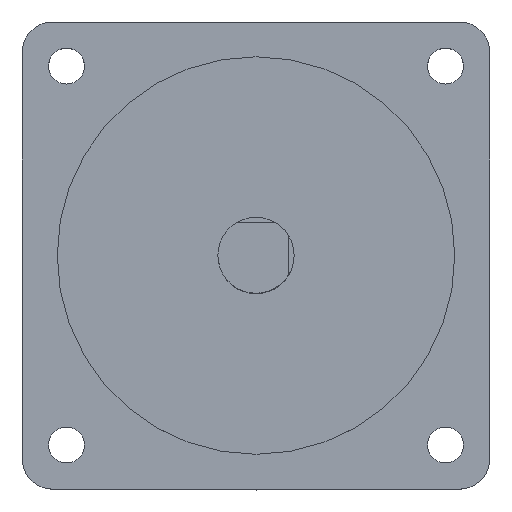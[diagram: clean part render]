
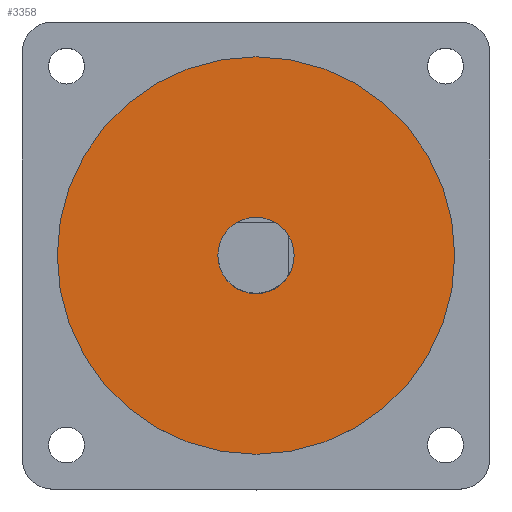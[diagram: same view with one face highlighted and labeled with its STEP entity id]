
A CAD part, top view. The second image highlights one B-rep face of the part: STEP entity #3358.
In plain terms, the highlighted planar face has unit normal (0, 0, 1).
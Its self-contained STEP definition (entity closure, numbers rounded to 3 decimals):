
#131 = EDGE_LOOP ( 'NONE', ( #2760, #447 ) ) ;
#224 = VERTEX_POINT ( 'NONE', #756 ) ;
#243 = DIRECTION ( 'NONE',  ( 1., 0., 0. ) ) ;
#342 = CIRCLE ( 'NONE', #2968, 36.513 ) ;
#363 = VERTEX_POINT ( 'NONE', #894 ) ;
#447 = ORIENTED_EDGE ( 'NONE', *, *, #2326, .T. ) ;
#756 = CARTESIAN_POINT ( 'NONE',  ( -7., 0., 1.6 ) ) ;
#892 = VERTEX_POINT ( 'NONE', #1873 ) ;
#894 = CARTESIAN_POINT ( 'NONE',  ( -36.513, 0., 1.6 ) ) ;
#951 = ORIENTED_EDGE ( 'NONE', *, *, #1519, .T. ) ;
#1217 = AXIS2_PLACEMENT_3D ( 'NONE', #2599, #3831, #2003 ) ;
#1224 = DIRECTION ( 'NONE',  ( 0., 0., 1. ) ) ;
#1265 = ORIENTED_EDGE ( 'NONE', *, *, #3614, .T. ) ;
#1519 = EDGE_CURVE ( 'NONE', #3114, #363, #3074, .T. ) ;
#1573 = FACE_OUTER_BOUND ( 'NONE', #3220, .T. ) ;
#1637 = CIRCLE ( 'NONE', #1659, 7. ) ;
#1655 = DIRECTION ( 'NONE',  ( 0., 0., -1. ) ) ;
#1659 = AXIS2_PLACEMENT_3D ( 'NONE', #3886, #2061, #243 ) ;
#1691 = PLANE ( 'NONE',  #1217 ) ;
#1739 = CARTESIAN_POINT ( 'NONE',  ( 36.513, 0., 1.6 ) ) ;
#1873 = CARTESIAN_POINT ( 'NONE',  ( 7., 0., 1.6 ) ) ;
#1971 = CIRCLE ( 'NONE', #2363, 7. ) ;
#2003 = DIRECTION ( 'NONE',  ( 1., 0., 0. ) ) ;
#2061 = DIRECTION ( 'NONE',  ( 0., 0., -1. ) ) ;
#2326 = EDGE_CURVE ( 'NONE', #892, #224, #1971, .T. ) ;
#2363 = AXIS2_PLACEMENT_3D ( 'NONE', #3481, #1655, #3799 ) ;
#2473 = EDGE_CURVE ( 'NONE', #224, #892, #1637, .T. ) ;
#2599 = CARTESIAN_POINT ( 'NONE',  ( 0., 0., 1.6 ) ) ;
#2760 = ORIENTED_EDGE ( 'NONE', *, *, #2473, .T. ) ;
#2864 = AXIS2_PLACEMENT_3D ( 'NONE', #3398, #3467, #2957 ) ;
#2957 = DIRECTION ( 'NONE',  ( 1., 0., 0. ) ) ;
#2968 = AXIS2_PLACEMENT_3D ( 'NONE', #3045, #1224, #3328 ) ;
#3045 = CARTESIAN_POINT ( 'NONE',  ( 0., 0., 1.6 ) ) ;
#3074 = CIRCLE ( 'NONE', #2864, 36.513 ) ;
#3114 = VERTEX_POINT ( 'NONE', #1739 ) ;
#3181 = FACE_BOUND ( 'NONE', #131, .T. ) ;
#3220 = EDGE_LOOP ( 'NONE', ( #1265, #951 ) ) ;
#3328 = DIRECTION ( 'NONE',  ( 1., 0., 0. ) ) ;
#3358 = ADVANCED_FACE ( 'NONE', ( #1573, #3181 ), #1691, .T. ) ;
#3398 = CARTESIAN_POINT ( 'NONE',  ( 0., 0., 1.6 ) ) ;
#3467 = DIRECTION ( 'NONE',  ( 0., 0., 1. ) ) ;
#3481 = CARTESIAN_POINT ( 'NONE',  ( 0., 0., 1.6 ) ) ;
#3614 = EDGE_CURVE ( 'NONE', #363, #3114, #342, .T. ) ;
#3799 = DIRECTION ( 'NONE',  ( 1., 0., 0. ) ) ;
#3831 = DIRECTION ( 'NONE',  ( 0., 0., 1. ) ) ;
#3886 = CARTESIAN_POINT ( 'NONE',  ( 0., 0., 1.6 ) ) ;
